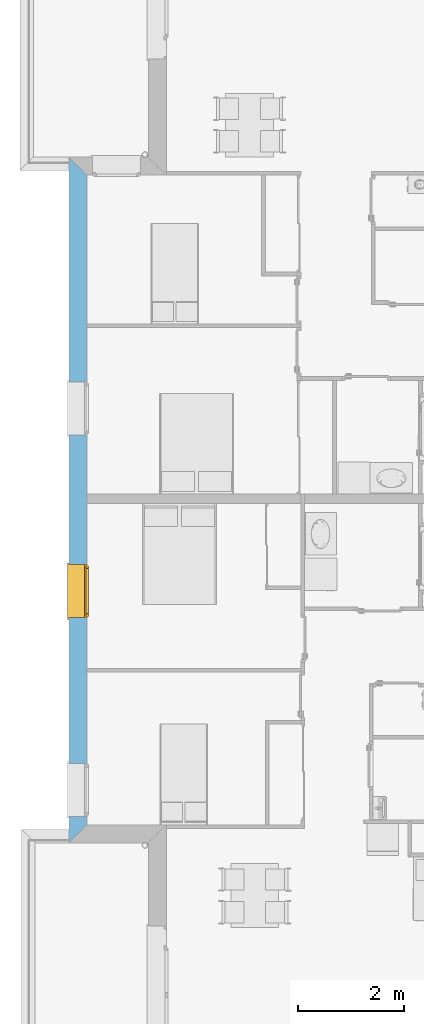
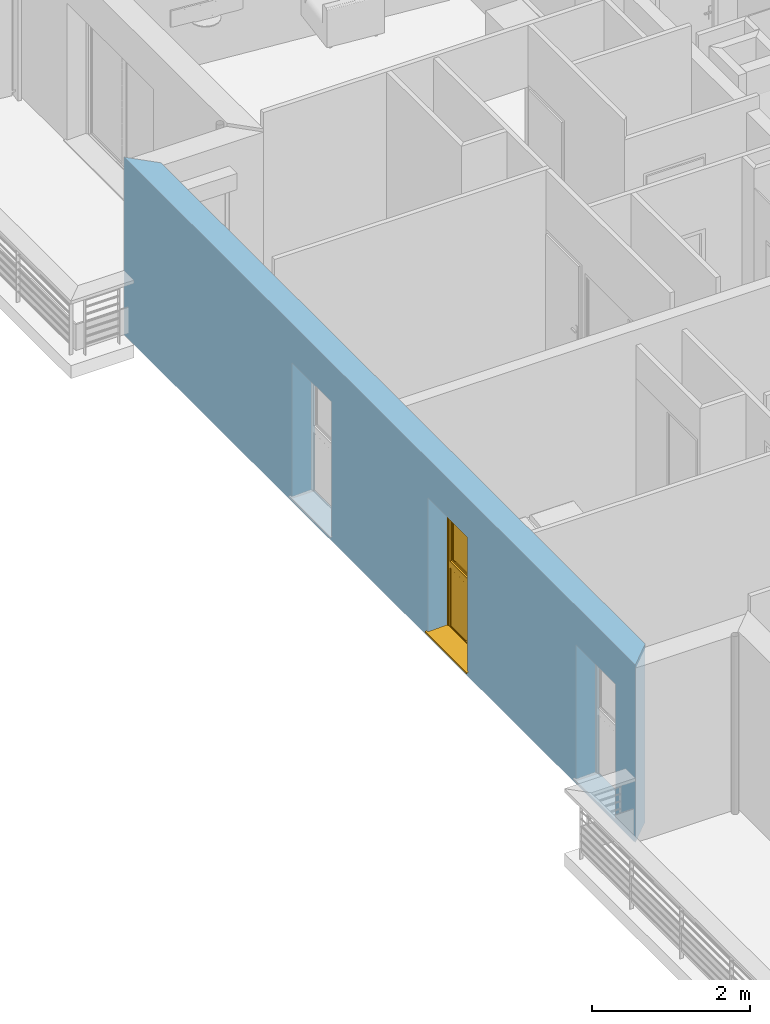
# One storey, part 27 of 164: 1 window, 3 openings, plus 1 element that does not belong to this part.
"""IFC2X3 building model written with IfcOpenShell, lengths in millimetres."""

from ifc_helpers import new_model, entity, si_unit, converted_unit, derived_unit, money_unit, direction, frame, origin_with_axes, place, context, subcontext, project, spatial, polyline, outline, extrude, open_shell, faceted_brep, surface_model, source, transform, mapped, material, layer, layer_set, layer_usage, type_object, element, fill, save


model = new_model("IFC2X3")

# Units and contexts
model_context = context("Model", 3, precision=0.01, world=origin_with_axes(), true_north=direction((0.0, 1.0)))
body_context = subcontext(model_context, "Body", "Model", "MODEL_VIEW")
ifc_project = project(units=[si_unit("LENGTHUNIT", "METRE", prefix="MILLI"), si_unit("AREAUNIT", "SQUARE_METRE"), si_unit("VOLUMEUNIT", "CUBIC_METRE"), converted_unit("PLANEANGLEUNIT", "DEGREE", entity("IfcPlaneAngleMeasure", 0.0174532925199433), si_unit("PLANEANGLEUNIT", "RADIAN"), dimensions=[0, 0, 0, 0, 0, 0, 0]), money_unit("USD"), converted_unit("TIMEUNIT", "Year", entity("IfcTimeMeasure", 31557600.0), si_unit("TIMEUNIT", "SECOND"), dimensions=[0, 0, 1, 0, 0, 0, 0]), si_unit("MASSUNIT", "GRAM", prefix="KILO"), si_unit("THERMODYNAMICTEMPERATUREUNIT", "DEGREE_CELSIUS"), si_unit("LUMINOUSINTENSITYUNIT", "LUMEN"), si_unit("ENERGYUNIT", "JOULE", prefix="MEGA"), derived_unit("THERMALCONDUCTANCEUNIT", [(si_unit("POWERUNIT", "WATT"), 1), (si_unit("LENGTHUNIT", "METRE"), -1), (si_unit("THERMODYNAMICTEMPERATUREUNIT", "KELVIN"), -1)]), derived_unit("SPECIFICHEATCAPACITYUNIT", [(si_unit("ENERGYUNIT", "JOULE"), 1), (si_unit("MASSUNIT", "GRAM", prefix="KILO"), -1), (si_unit("THERMODYNAMICTEMPERATUREUNIT", "KELVIN"), -1)]), derived_unit("MASSDENSITYUNIT", [(si_unit("MASSUNIT", "GRAM", prefix="KILO"), 1), (si_unit("VOLUMEUNIT", "CUBIC_METRE"), -1)])], contexts=[model_context])

# Site, building, storey
site_placement = place(None, origin_with_axes())
site = spatial("IfcSite", under=ifc_project, at=site_placement, Name="Site", CompositionType="ELEMENT")
building_placement = place(site_placement, origin_with_axes())
building = spatial("IfcBuilding", under=site, at=building_placement, Name="Bâtiment", CompositionType="ELEMENT")
storey_placement = place(building_placement, frame((0.0, 0.0, 5750.0), z_axis=(0.0, 0.0, 1.0), x_axis=(1.0, 0.0, 0.0)))
storey = spatial("IfcBuildingStorey", under=building, at=storey_placement, Name="Etage1", CompositionType="ELEMENT", Elevation=5750.0)

# Wall, openings, window
ifc_material_1 = material(Name="Parpaing 312445824")
ifc_layer_1 = layer(ifc_material_1, 180.0, ventilated="UNKNOWN")
ifc_material_2 = material(Name="Isolant styromousse 301821074")
ifc_layer_2 = layer(ifc_material_2, 160.0, ventilated="UNKNOWN")
ifc_layer_set = layer_set([ifc_layer_1, ifc_layer_2], Name="isol int 18+16 0018356637")
ifc_layer_usage = layer_usage(ifc_layer_set, "AXIS2", "POSITIVE", 0.0)
wall_type = type_object("IfcWallType", Name="isol int 18+16 0018356637 340", PredefinedType="NOTDEFINED")
wall_placement = place(storey_placement, frame((2216634.23600678, -626071.2161261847, 0.0), z_axis=(0.0, 0.0, 1.0), x_axis=(5.891582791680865e-06, -0.9999999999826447, 0.0)))
wall = element("IfcWallStandardCase", 1, at=wall_placement, inside=storey, type_object=wall_type, material=ifc_layer_usage, Name="Mur-143", context=body_context, shape_type="SweptSolid", body=[
    extrude(outline(polyline([(-0.001993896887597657, 0.0), (12945.59157326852, 0.0), (12605.59357640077, 340.0000000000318), (340.0000092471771, 340.0000000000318), (-0.001993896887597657, 0.0)])), origin_with_axes(), (0.0, 0.0, 1.0), 2750.0),
])
opening_1_placement = place(wall_placement, frame((4744.546071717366, -1.13686837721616e-10, 49.99999999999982), z_axis=(0.0, 0.0, 1.0), x_axis=(1.0, 0.0, 0.0)))
element("IfcOpeningElement", 2, at=opening_1_placement, cuts=wall, Name="Fen-133", context=body_context, shape_type="Brep", body=[
    faceted_brep([(-499.9999999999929, 289.9999999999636, 2100.0), (-499.9999999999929, 341.0762700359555, 2100.0), (-500.0, 341.0762700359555, 0.0), (-500.0, 289.9999999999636, 0.0), (-499.9999999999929, 280.0000000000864, 2100.0), (-499.9999999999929, 280.0000000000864, 2350.0), (-500.0, 530.0000000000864, 2350.0), (-500.0, 530.0000000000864, 2100.0), (500.0, 341.0762700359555, 2100.0), (500.0, 341.0762700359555, 0.0), (500.0, 289.9999999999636, 0.0), (500.0, -1.076270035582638, 0.0), (-500.0, -1.076270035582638, 0.0), (-500.0, -1.076270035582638, 2100.0), (500.0, 280.0000000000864, 2100.0), (500.0, 280.0000000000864, 2350.0), (499.9999999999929, 529.9999999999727, 2350.0), (499.9999999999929, 529.9999999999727, 2100.0), (500.0, 289.9999999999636, 2100.0), (500.0, -1.076270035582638, 2100.0)], [[[0, 1, 2, 3]], [[1, 0, 4, 5, 6, 7]], [[1, 8, 9, 2]], [[10, 11, 12, 3, 2, 9]], [[4, 0, 3, 12, 13]], [[4, 14, 15, 5]], [[6, 5, 15, 16]], [[7, 6, 16, 17]], [[8, 1, 7, 17]], [[8, 18, 10, 9]], [[18, 14, 19, 11, 10]], [[13, 12, 11, 19]], [[14, 4, 13, 19]], [[18, 8, 17, 16, 15, 14]]]),
])
opening_2_placement = place(wall_placement, frame((11943.66357682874, -1.13686837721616e-10, 49.99999999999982), z_axis=(0.0, 0.0, 1.0), x_axis=(1.0, 0.0, 0.0)))
element("IfcOpeningElement", 3, at=opening_2_placement, cuts=wall, Name="Fen-133", context=body_context, shape_type="Brep", body=[
    faceted_brep([(-500.0, 290.0000000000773, 2100.0), (-500.0000000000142, 341.0762700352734, 2100.0), (-500.0000000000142, 341.0762700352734, 0.0), (-500.0, 290.0000000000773, 0.0), (-500.0, 280.0000000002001, 2100.0), (-500.0, 280.0000000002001, 2350.0), (-500.0000000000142, 529.9999999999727, 2350.0), (-500.0000000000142, 529.9999999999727, 2100.0), (500.0, 341.0762700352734, 2100.0), (499.9999999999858, 341.0762700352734, 0.0), (499.9999999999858, 289.9999999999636, 0.0), (500.0, -1.076270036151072, 0.0), (-500.0, -1.076270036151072, 0.0), (-500.0, -1.076270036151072, 2100.0), (500.0, 280.0000000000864, 2100.0), (500.0, 280.0000000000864, 2350.0), (500.0, 529.9999999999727, 2350.0), (500.0, 529.9999999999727, 2100.0), (500.0, 289.9999999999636, 2100.0), (500.0, -1.076270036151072, 2100.0)], [[[0, 1, 2, 3]], [[1, 0, 4, 5, 6, 7]], [[1, 8, 9, 2]], [[10, 11, 12, 3, 2, 9]], [[4, 0, 3, 12, 13]], [[4, 14, 15, 5]], [[15, 16, 6, 5]], [[16, 17, 7, 6]], [[8, 1, 7, 17]], [[8, 18, 10, 9]], [[18, 14, 19, 11, 10]], [[13, 12, 11, 19]], [[14, 4, 13, 19]], [[18, 8, 17, 16, 15, 14]]]),
])
opening_3_placement = place(wall_placement, frame((8194.484965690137, -1.13686837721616e-10, 49.99999999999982), z_axis=(0.0, 0.0, 1.0), x_axis=(1.0, 0.0, 0.0)))
opening_3 = element("IfcOpeningElement", 4, at=opening_3_placement, cuts=wall, Name="Fen-133", context=body_context, shape_type="Brep", body=[
    faceted_brep([(-500.0, 290.0000000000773, 2100.0), (-499.9999999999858, 341.076270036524, 2100.0), (-499.9999999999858, 341.076270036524, 0.0), (-499.9999999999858, 290.0000000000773, 0.0), (-500.0, 280.0000000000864, 2100.0), (-500.0, 280.0000000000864, 2350.0), (-499.9999999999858, 530.0000000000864, 2350.0), (-499.9999999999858, 530.0000000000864, 2100.0), (500.0000000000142, 341.076270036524, 2100.0), (500.0, 341.076270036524, 0.0), (500.0000000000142, 289.9999999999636, 0.0), (500.0000000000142, -1.076270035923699, 0.0), (-499.9999999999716, -1.076270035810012, 0.0), (-499.9999999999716, -1.076270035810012, 2100.0), (500.0000000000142, 280.0000000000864, 2100.0), (500.0000000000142, 280.0000000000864, 2350.0), (500.0000000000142, 530.0000000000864, 2350.0), (500.0000000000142, 530.0000000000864, 2100.0), (500.0000000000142, 289.9999999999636, 2100.0), (500.0000000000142, -1.076270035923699, 2100.0)], [[[0, 1, 2, 3]], [[1, 0, 4, 5, 6, 7]], [[1, 8, 9, 2]], [[10, 11, 12, 3, 2, 9]], [[4, 0, 3, 12, 13]], [[4, 14, 15, 5]], [[6, 5, 15, 16]], [[7, 6, 16, 17]], [[8, 1, 7, 17]], [[8, 18, 10, 9]], [[18, 14, 19, 11, 10]], [[13, 12, 11, 19]], [[14, 4, 13, 19]], [[18, 8, 17, 16, 15, 14]]]),
])
window_style = type_object("IfcWindowStyle", Name="Fenêtre 27", ConstructionType="NOTDEFINED", OperationType="DOUBLE_PANEL_HORIZONTAL", ParameterTakesPrecedence=False, Sizeable=False)
shared_shape = source(origin_with_axes(), body_context, "Body", "SurfaceModel", [
    surface_model("IfcShellBasedSurfaceModel", [(-500.0, -51.00000000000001, 40.00000000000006), (500.0, -51.00000000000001, 40.0), (500.0, -51.00000000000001, 50.0), (-500.0, -51.00000000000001, 50.00000000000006), (-530.0, -369.9999999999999, 28.96551724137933), (530.0, -369.9999999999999, 28.96551724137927), (530.0, -339.9999999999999, 30.00324289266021), (500.0, -339.9999999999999, 30.00324289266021), (-500.0, -339.9999999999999, 30.00324289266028), (-530.0, -339.9999999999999, 30.00324289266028), (-530.0, -369.9999999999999, 8.96551724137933), (530.0, -369.9999999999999, 8.965517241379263), (-530.0, -359.9999999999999, 18.96551724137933), (530.0, -359.9999999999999, 18.96551724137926)], [open_shell([[[0, 1, 2, 3]], [[4, 5, 6, 7, 1, 0, 8, 9]], [[10, 11, 5, 4]], [[12, 13, 11, 10]]])]),
    faceted_brep([(500.0, -59.99999999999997, 2350.0), (500.0, 190.0, 2350.0), (497.0, 190.0, 2350.0), (497.0, -59.99999999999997, 2350.0), (500.0, -59.99999999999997, 2100.0), (500.0, 190.0, 2100.0), (497.0, 190.0, 2100.0), (497.0, -59.99999999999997, 2100.0)], [[[0, 1, 2, 3]], [[0, 4, 5, 1]], [[1, 5, 6, 2]], [[3, 2, 6, 7]], [[4, 0, 3, 7]], [[5, 4, 7, 6]]]),
    faceted_brep([(-497.0, -59.99999999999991, 2350.0), (-497.0, 190.0000000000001, 2350.0), (-500.0, 190.0000000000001, 2350.0), (-500.0, -59.99999999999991, 2350.0), (-497.0, -59.99999999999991, 2100.0), (-497.0, 190.0000000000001, 2100.0), (-500.0, 190.0000000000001, 2100.0), (-500.0, -59.99999999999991, 2100.0)], [[[0, 1, 2, 3]], [[0, 4, 5, 1]], [[1, 5, 6, 2]], [[3, 2, 6, 7]], [[4, 0, 3, 7]], [[5, 4, 7, 6]]]),
    faceted_brep([(497.0, -60.0, 2100.0), (497.0, -60.0, 2350.0), (-497.0, -59.99999999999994, 2350.0), (-497.0, -59.99999999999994, 2100.0), (497.0, -56.99999999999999, 2100.0), (497.0, -56.99999999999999, 2347.0), (497.0, 187.0, 2347.0), (497.0, 187.0, 2103.0), (497.0, -37.99999999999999, 2103.0), (497.0, -37.99999999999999, 2100.0), (497.0, 190.0, 2100.0), (497.0, 190.0, 2350.0), (-497.0, 190.0000000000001, 2350.0), (-497.0, 190.0000000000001, 2100.0), (-497.0, -37.99999999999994, 2100.0), (-497.0, -37.99999999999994, 2103.0), (-497.0, 187.0000000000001, 2103.0), (-497.0, 187.0000000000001, 2347.0), (-497.0, -56.99999999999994, 2347.0), (-497.0, -56.99999999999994, 2100.0)], [[[0, 1, 2, 3]], [[0, 4, 5, 6, 7, 8, 9, 10, 11, 1]], [[1, 11, 12, 2]], [[3, 2, 12, 13, 14, 15, 16, 17, 18, 19]], [[4, 0, 3, 19]], [[5, 4, 19, 18]], [[6, 5, 18, 17]], [[7, 6, 17, 16]], [[8, 7, 16, 15]], [[9, 8, 15, 14]], [[10, 9, 14, 13]], [[11, 10, 13, 12]]]),
    faceted_brep([(494.0, -40.37442957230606, 2206.419644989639), (494.0, -35.54711042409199, 2188.403844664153), (494.0, -27.66471820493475, 2171.5), (494.0, -16.9667554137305, 2156.22172576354), (494.0, -3.778274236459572, 2143.03324458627), (494.0, 11.50000000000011, 2132.335281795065), (494.0, 28.40384466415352, 2124.452889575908), (494.0, 46.4196449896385, 2119.625570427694), (494.0, 65.00000000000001, 2118.0), (494.0, 83.58035501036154, 2119.625570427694), (494.0, 101.5961553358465, 2124.452889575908), (494.0, 118.4999999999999, 2132.335281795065), (494.0, 133.7782742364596, 2143.03324458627), (494.0, 146.9667554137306, 2156.22172576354), (494.0, 157.6647182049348, 2171.5), (494.0, 165.5471104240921, 2188.403844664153), (494.0, 170.3744295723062, 2206.419644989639), (494.0, 171.9999999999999, 2225.0), (494.0, 170.3744295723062, 2243.580355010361), (494.0, 165.5471104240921, 2261.596155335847), (494.0, 157.6647182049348, 2278.5), (494.0, 146.9667554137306, 2293.77827423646), (494.0, 133.7782742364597, 2306.966755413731), (494.0, 118.5, 2317.664718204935), (494.0, 101.5961553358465, 2325.547110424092), (494.0, 83.58035501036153, 2330.374429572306), (494.0, 64.99999999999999, 2332.0), (494.0, 46.41964498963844, 2330.374429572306), (494.0, 28.40384466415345, 2325.547110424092), (494.0, 11.5, 2317.664718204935), (494.0, -3.778274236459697, 2306.966755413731), (494.0, -16.96675541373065, 2293.77827423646), (494.0, -27.66471820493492, 2278.5), (494.0, -35.54711042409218, 2261.596155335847), (494.0, -40.37442957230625, 2243.580355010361), (494.0, -41.99999999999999, 2225.0), (-494.0, -40.374429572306, 2206.419644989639), (-494.0, -35.54711042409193, 2188.403844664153), (-494.0, -27.6647182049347, 2171.5), (-494.0, -16.96675541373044, 2156.22172576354), (-494.0, -3.778274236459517, 2143.03324458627), (-494.0, 11.50000000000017, 2132.335281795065), (-494.0, 28.40384466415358, 2124.452889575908), (-494.0, 46.41964498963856, 2119.625570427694), (-494.0, 65.00000000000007, 2118.0), (-494.0, 83.5803550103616, 2119.625570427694), (-494.0, 101.5961553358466, 2124.452889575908), (-494.0, 118.5, 2132.335281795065), (-494.0, 133.7782742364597, 2143.03324458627), (-494.0, 146.9667554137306, 2156.22172576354), (-494.0, 157.6647182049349, 2171.5), (-494.0, 165.5471104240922, 2188.403844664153), (-494.0, 170.3744295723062, 2206.419644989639), (-494.0, 172.0, 2225.0), (-494.0, 170.3744295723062, 2243.580355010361), (-494.0, 165.5471104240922, 2261.596155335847), (-494.0, 157.6647182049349, 2278.5), (-494.0, 146.9667554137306, 2293.77827423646), (-494.0, 133.7782742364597, 2306.966755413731), (-494.0, 118.5, 2317.664718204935), (-494.0, 101.5961553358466, 2325.547110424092), (-494.0, 83.58035501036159, 2330.374429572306), (-494.0, 65.00000000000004, 2332.0), (-494.0, 46.41964498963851, 2330.374429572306), (-494.0, 28.40384466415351, 2325.547110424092), (-494.0, 11.50000000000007, 2317.664718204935), (-494.0, -3.778274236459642, 2306.966755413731), (-494.0, -16.96675541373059, 2293.77827423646), (-494.0, -27.66471820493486, 2278.5), (-494.0, -35.54711042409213, 2261.596155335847), (-494.0, -40.37442957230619, 2243.580355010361), (-494.0, -41.99999999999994, 2225.0)], [[[0, 1, 2, 3, 4, 5, 6, 7, 8, 9, 10, 11, 12, 13, 14, 15, 16, 17, 18, 19, 20, 21, 22, 23, 24, 25, 26, 27, 28, 29, 30, 31, 32, 33, 34, 35]], [[1, 0, 36, 37]], [[2, 1, 37, 38]], [[3, 2, 38, 39]], [[4, 3, 39, 40]], [[5, 4, 40, 41]], [[6, 5, 41, 42]], [[7, 6, 42, 43]], [[8, 7, 43, 44]], [[9, 8, 44, 45]], [[10, 9, 45, 46]], [[11, 10, 46, 47]], [[12, 11, 47, 48]], [[13, 12, 48, 49]], [[14, 13, 49, 50]], [[15, 14, 50, 51]], [[16, 15, 51, 52]], [[17, 16, 52, 53]], [[18, 17, 53, 54]], [[19, 18, 54, 55]], [[20, 19, 55, 56]], [[21, 20, 56, 57]], [[22, 21, 57, 58]], [[23, 22, 58, 59]], [[24, 23, 59, 60]], [[25, 24, 60, 61]], [[26, 25, 61, 62]], [[27, 26, 62, 63]], [[28, 27, 63, 64]], [[29, 28, 64, 65]], [[30, 29, 65, 66]], [[31, 30, 66, 67]], [[32, 31, 67, 68]], [[33, 32, 68, 69]], [[34, 33, 69, 70]], [[35, 34, 70, 71]], [[0, 35, 71, 36]], [[36, 71, 70, 69, 68, 67, 66, 65, 64, 63, 62, 61, 60, 59, 58, 57, 56, 55, 54, 53, 52, 51, 50, 49, 48, 47, 46, 45, 44, 43, 42, 41, 40, 39, 38, 37]]]),
    faceted_brep([(-500.0, -34.99999999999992, 30.0), (-500.0, -59.99999999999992, 30.0), (-500.0, -59.99999999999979, 2100.0), (-500.0, -34.99999999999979, 2100.0), (-475.0, -34.99999999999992, 30.0), (-475.0, -37.99999999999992, 30.0), (-497.0, -37.99999999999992, 30.0), (-497.0, -56.99999999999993, 30.0), (-475.0, -56.99999999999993, 30.0), (-475.0, -59.99999999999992, 30.0), (-475.0, -59.99999999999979, 2100.0), (-475.0, -56.99999999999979, 2100.0), (-497.0, -56.99999999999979, 2100.0), (-497.0, -37.99999999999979, 2100.0), (-475.0, -37.99999999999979, 2100.0), (-475.0, -34.99999999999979, 2100.0)], [[[0, 1, 2, 3]], [[0, 4, 5, 6, 7, 8, 9, 1]], [[1, 9, 10, 2]], [[3, 2, 10, 11, 12, 13, 14, 15]], [[4, 0, 3, 15]], [[5, 4, 15, 14]], [[6, 5, 14, 13]], [[7, 6, 13, 12]], [[8, 7, 12, 11]], [[9, 8, 11, 10]]]),
    faceted_brep([(500.0, -34.99999999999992, 30.0), (500.0, -34.99999999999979, 2100.0), (500.0, -59.99999999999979, 2100.0), (500.0, -59.99999999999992, 30.0), (475.0, -34.99999999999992, 30.0), (475.0, -34.99999999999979, 2100.0), (475.0, -37.99999999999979, 2100.0), (497.0, -37.99999999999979, 2100.0), (497.0, -56.99999999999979, 2100.0), (475.0, -56.99999999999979, 2100.0), (475.0, -59.99999999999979, 2100.0), (475.0, -59.99999999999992, 30.0), (475.0, -56.99999999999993, 30.0), (497.0, -56.99999999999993, 30.0), (497.0, -37.99999999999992, 30.0), (475.0, -37.99999999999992, 30.0)], [[[0, 1, 2, 3]], [[4, 5, 1, 0]], [[1, 5, 6, 7, 8, 9, 10, 2]], [[3, 2, 10, 11]], [[0, 3, 11, 12, 13, 14, 15, 4]], [[15, 6, 5, 4]], [[14, 7, 6, 15]], [[13, 8, 7, 14]], [[12, 9, 8, 13]], [[11, 10, 9, 12]]]),
    faceted_brep([(-497.0, -46.66666666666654, 2225.0), (497.0, -46.6666666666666, 2225.0), (497.0, -46.6666666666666, 2216.666666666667), (-497.0, -46.66666666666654, 2216.666666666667), (-497.0, -51.66666666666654, 2225.0), (497.0, -51.6666666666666, 2225.0), (497.0, -51.6666666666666, 2216.666666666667), (497.0, -49.99999999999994, 2200.0), (497.0, -44.99999999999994, 2200.0), (-497.0, -44.99999999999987, 2200.0), (-497.0, -49.99999999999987, 2200.0), (-497.0, -51.66666666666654, 2216.666666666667)], [[[0, 1, 2, 3]], [[1, 0, 4, 5]], [[1, 5, 6, 7, 8, 2]], [[2, 8, 9, 3]], [[4, 0, 3, 9, 10, 11]], [[6, 5, 4, 11]], [[7, 6, 11, 10]], [[8, 7, 10, 9]]]),
    faceted_brep([(497.0, -44.99999999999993, 2200.0), (497.0, -46.6666666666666, 2183.333333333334), (-497.0, -46.66666666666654, 2183.333333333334), (-497.0, -44.99999999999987, 2200.0), (497.0, -49.99999999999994, 2200.0), (497.0, -51.6666666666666, 2183.333333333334), (497.0, -51.6666666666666, 2166.666666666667), (497.0, -49.99999999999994, 2150.000000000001), (497.0, -44.99999999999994, 2150.000000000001), (497.0, -46.6666666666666, 2166.666666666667), (-497.0, -46.66666666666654, 2166.666666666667), (-497.0, -44.99999999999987, 2150.000000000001), (-497.0, -49.99999999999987, 2150.000000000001), (-497.0, -51.66666666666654, 2166.666666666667), (-497.0, -51.66666666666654, 2183.333333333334), (-497.0, -49.99999999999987, 2200.0)], [[[0, 1, 2, 3]], [[0, 4, 5, 6, 7, 8, 9, 1]], [[1, 9, 10, 2]], [[3, 2, 10, 11, 12, 13, 14, 15]], [[4, 0, 3, 15]], [[5, 4, 15, 14]], [[6, 5, 14, 13]], [[7, 6, 13, 12]], [[8, 7, 12, 11]], [[9, 8, 11, 10]]]),
    faceted_brep([(497.0, -44.99999999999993, 2150.000000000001), (497.0, -46.6666666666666, 2133.333333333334), (-497.0, -46.66666666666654, 2133.333333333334), (-497.0, -44.99999999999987, 2150.000000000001), (497.0, -49.99999999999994, 2150.000000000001), (497.0, -51.6666666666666, 2133.333333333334), (497.0, -51.6666666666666, 2116.666666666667), (497.0, -49.99999999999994, 2100.000000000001), (497.0, -44.99999999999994, 2100.000000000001), (497.0, -46.6666666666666, 2116.666666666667), (-497.0, -46.66666666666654, 2116.666666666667), (-497.0, -44.99999999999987, 2100.000000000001), (-497.0, -49.99999999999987, 2100.000000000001), (-497.0, -51.66666666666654, 2116.666666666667), (-497.0, -51.66666666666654, 2133.333333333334), (-497.0, -49.99999999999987, 2150.000000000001)], [[[0, 1, 2, 3]], [[0, 4, 5, 6, 7, 8, 9, 1]], [[1, 9, 10, 2]], [[3, 2, 10, 11, 12, 13, 14, 15]], [[4, 0, 3, 15]], [[5, 4, 15, 14]], [[6, 5, 14, 13]], [[7, 6, 13, 12]], [[8, 7, 12, 11]], [[9, 8, 11, 10]]]),
    faceted_brep([(475.0000000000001, 0.0, 2050.0), (475.0000000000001, -25.00000000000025, 2050.0), (450.0, -25.00000000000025, 2050.0), (450.0, -50.00000000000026, 2050.0), (500.0, -50.00000000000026, 2050.0), (500.0, 0.0, 2050.0), (475.0000000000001, 0.0, 1025.0), (475.0000000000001, -25.00000000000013, 1025.0), (450.0, -25.00000000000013, 1050.0), (450.0, -25.00000000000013, 1025.0), (450.0, -50.00000000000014, 1050.0), (450.0, -50.00000000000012, 950.0), (450.0, -50.00000000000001, 50.00000000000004), (500.0, -50.00000000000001, 50.00000000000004), (500.0, 0.0, 50.00000000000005), (450.0, 0.0, 50.00000000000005), (450.0, 0.0, 950.0), (450.0, 0.0, 1025.0)], [[[0, 1, 2, 3, 4, 5]], [[1, 0, 6, 7]], [[8, 2, 1, 7, 9]], [[2, 8, 10, 3]], [[10, 11, 12, 13, 4, 3]], [[5, 4, 13, 14]], [[6, 0, 5, 14, 15, 16, 17]], [[6, 17, 9, 7]], [[9, 17, 16, 11, 10, 8]], [[15, 12, 11, 16]], [[14, 13, 12, 15]]]),
    faceted_brep([(-450.0, -25.00000000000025, 2050.0), (-475.0000000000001, -25.00000000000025, 2050.0), (-475.0000000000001, 0.0, 2050.0), (-500.0, 0.0, 2050.0), (-500.0, -50.00000000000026, 2050.0), (-450.0, -50.00000000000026, 2050.0), (-450.0, -25.00000000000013, 1050.0), (-450.0, -25.00000000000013, 1025.0), (-475.0000000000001, -25.00000000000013, 1025.0), (-475.0000000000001, 0.0, 1025.0), (-450.0, 0.0, 1025.0), (-450.0, 0.0, 950.0), (-450.0, 0.0, 50.00000000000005), (-500.0, 0.0, 50.00000000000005), (-500.0, -50.00000000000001, 50.00000000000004), (-450.0, -50.00000000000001, 50.00000000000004), (-450.0, -50.00000000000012, 950.0), (-450.0, -50.00000000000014, 1050.0)], [[[0, 1, 2, 3, 4, 5]], [[1, 0, 6, 7, 8]], [[9, 2, 1, 8]], [[9, 10, 11, 12, 13, 3, 2]], [[13, 14, 4, 3]], [[14, 15, 16, 17, 5, 4]], [[6, 0, 5, 17]], [[7, 6, 17, 16, 11, 10]], [[10, 9, 8, 7]], [[11, 16, 15, 12]], [[12, 15, 14, 13]]]),
    faceted_brep([(450.0, -25.00000000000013, 1050.0), (-450.0, -25.00000000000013, 1050.0), (-450.0, -50.00000000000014, 1050.0), (450.0, -50.00000000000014, 1050.0), (-450.0, -25.00000000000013, 1025.0), (450.0, -25.00000000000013, 1025.0), (-450.0, 0.0, 1025.0), (-450.0, 0.0, 950.0), (-450.0, -50.00000000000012, 950.0), (450.0, -50.00000000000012, 950.0), (450.0, 0.0, 950.0), (450.0, 0.0, 1025.0)], [[[0, 1, 2, 3]], [[4, 1, 0, 5]], [[4, 6, 7, 8, 2, 1]], [[8, 9, 3, 2]], [[5, 0, 3, 9, 10, 11]], [[11, 6, 4, 5]], [[6, 11, 10, 7]], [[10, 9, 8, 7]]]),
    faceted_brep([(475.0000000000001, 0.0, 2050.0), (475.0000000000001, 0.0, 2075.0), (-475.0000000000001, 0.0, 2075.0), (-475.0000000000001, 0.0, 2050.0), (-500.0, 0.0, 2050.0), (-500.0, 0.0, 2100.0), (500.0, 0.0, 2100.0), (500.0, 0.0, 2050.0), (475.0000000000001, -25.00000000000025, 2050.0), (475.0000000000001, -25.00000000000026, 2075.0), (-475.0000000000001, -25.00000000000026, 2075.0), (-475.0000000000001, -25.00000000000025, 2050.0), (-450.0, -25.00000000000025, 2050.0), (-450.0, -50.00000000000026, 2050.0), (-500.0, -50.00000000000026, 2050.0), (-500.0, -50.00000000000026, 2100.0), (500.0, -50.00000000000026, 2100.0), (500.0, -50.00000000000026, 2050.0), (450.0, -50.00000000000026, 2050.0), (450.0, -25.00000000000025, 2050.0)], [[[0, 1, 2, 3, 4, 5, 6, 7]], [[1, 0, 8, 9]], [[2, 1, 9, 10]], [[3, 2, 10, 11]], [[11, 12, 13, 14, 4, 3]], [[4, 14, 15, 5]], [[5, 15, 16, 6]], [[6, 16, 17, 7]], [[8, 0, 7, 17, 18, 19]], [[12, 11, 10, 9, 8, 19]], [[12, 19, 18, 13]], [[14, 13, 18, 17, 16, 15]]]),
    faceted_brep([(450.0, -50.00000000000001, 50.0), (500.0, -50.00000000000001, 50.0), (500.0, 0.0, 50.00000000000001), (450.0, 0.0, 50.00000000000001), (-450.0, -50.00000000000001, 50.0), (-500.0, -50.00000000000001, 50.0), (-500.0, -50.0, 0.0), (500.0, -50.0, 0.0), (500.0, 0.0, 0.0), (-500.0, 0.0, 0.0), (-500.0, 0.0, 50.00000000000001), (-450.0, 0.0, 50.00000000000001)], [[[0, 1, 2, 3]], [[0, 4, 5, 6, 7, 1]], [[1, 7, 8, 2]], [[3, 2, 8, 9, 10, 11]], [[4, 0, 3, 11]], [[5, 4, 11, 10]], [[6, 5, 10, 9]], [[7, 6, 9, 8]]]),
    faceted_brep([(425.0000000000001, -25.00000000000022, 2025.0), (475.0000000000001, -25.00000000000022, 2025.0), (475.0000000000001, 24.99999999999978, 2025.0), (425.0000000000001, 24.99999999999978, 2025.0), (425.0000000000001, -25.00000000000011, 1075.0), (475.0000000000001, -25.0000000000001, 1075.0), (475.0000000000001, 24.9999999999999, 1075.0), (425.0000000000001, 24.9999999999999, 1075.0)], [[[0, 1, 2, 3]], [[0, 4, 5, 1]], [[1, 5, 6, 2]], [[3, 2, 6, 7]], [[4, 0, 3, 7]], [[5, 4, 7, 6]]]),
    faceted_brep([(-425.0000000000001, -25.00000000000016, 1075.0), (-475.0000000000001, -25.00000000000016, 1075.0), (-475.0000000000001, 24.99999999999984, 1075.0), (-425.0000000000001, 24.99999999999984, 1075.0), (-425.0000000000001, -25.00000000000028, 2025.0), (-475.0000000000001, -25.00000000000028, 2025.0), (-475.0000000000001, 24.99999999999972, 2025.0), (-425.0000000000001, 24.99999999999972, 2025.0)], [[[0, 1, 2, 3]], [[0, 4, 5, 1]], [[1, 5, 6, 2]], [[3, 2, 6, 7]], [[4, 0, 3, 7]], [[5, 4, 7, 6]]]),
    faceted_brep([(-475.0000000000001, -25.00000000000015, 1025.0), (-475.0000000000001, -25.00000000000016, 1075.0), (-475.0000000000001, 24.99999999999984, 1075.0), (-475.0000000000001, 24.99999999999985, 1025.0), (475.0000000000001, -25.0000000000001, 1025.0), (475.0000000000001, -25.0000000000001, 1075.0), (425.0000000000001, -25.00000000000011, 1075.0), (-425.0000000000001, -25.00000000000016, 1075.0), (-425.0000000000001, 24.99999999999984, 1075.0), (425.0000000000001, 24.9999999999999, 1075.0), (475.0000000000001, 24.9999999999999, 1075.0), (475.0000000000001, 24.9999999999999, 1025.0)], [[[0, 1, 2, 3]], [[0, 4, 5, 6, 7, 1]], [[1, 7, 8, 2]], [[3, 2, 8, 9, 10, 11]], [[4, 0, 3, 11]], [[5, 4, 11, 10]], [[6, 5, 10, 9]], [[7, 6, 9, 8]]]),
    faceted_brep([(475.0000000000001, -25.00000000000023, 2075.0), (475.0000000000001, -25.00000000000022, 2025.0), (475.0000000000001, 24.99999999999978, 2025.0), (475.0000000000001, 24.99999999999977, 2075.0), (-475.0000000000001, -25.00000000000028, 2075.0), (-475.0000000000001, -25.00000000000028, 2025.0), (-425.0000000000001, -25.00000000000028, 2025.0), (425.0000000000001, -25.00000000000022, 2025.0), (425.0000000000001, 24.99999999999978, 2025.0), (-425.0000000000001, 24.99999999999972, 2025.0), (-475.0000000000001, 24.99999999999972, 2025.0), (-475.0000000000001, 24.99999999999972, 2075.0)], [[[0, 1, 2, 3]], [[0, 4, 5, 6, 7, 1]], [[1, 7, 8, 2]], [[3, 2, 8, 9, 10, 11]], [[4, 0, 3, 11]], [[5, 4, 11, 10]], [[6, 5, 10, 9]], [[7, 6, 9, 8]]]),
    surface_model("IfcShellBasedSurfaceModel", [(425.0000000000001, -10.00000000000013, 1075.0), (425.0000000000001, -10.00000000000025, 2025.0), (-425.0000000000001, -10.00000000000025, 2025.0), (-425.0000000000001, -10.00000000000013, 1075.0)], [open_shell([[[0, 1, 2, 3]]])]),
    surface_model("IfcShellBasedSurfaceModel", [(425.0000000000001, 9.999999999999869, 1075.0), (-425.0000000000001, 9.999999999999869, 1075.0), (-425.0000000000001, 9.999999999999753, 2025.0), (425.0000000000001, 9.999999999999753, 2025.0)], [open_shell([[[0, 1, 2, 3]]])]),
    surface_model("IfcShellBasedSurfaceModel", [(450.0, -35.0, 49.99999999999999), (450.0, -35.00000000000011, 950.0), (-450.0, -35.00000000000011, 950.0), (-450.0, -35.0, 49.99999999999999)], [open_shell([[[0, 1, 2, 3]]])]),
    surface_model("IfcShellBasedSurfaceModel", [(450.0, -15.0, 49.99999999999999), (-450.0, -15.0, 49.99999999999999), (-450.0, -15.00000000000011, 950.0), (450.0, -15.00000000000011, 950.0)], [open_shell([[[0, 1, 2, 3]]])]),
])
window_placement = place(opening_3_placement, frame((-499.9999999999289, -2.273736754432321e-10, 0.0), z_axis=(0.0, 0.0, 1.0), x_axis=(1.0, 0.0, 0.0)))
window = element("IfcWindow", 5, at=window_placement, inside=storey, type_object=window_style, Name="Fen-133", OverallHeight=2100.0, OverallWidth=1000.0, context=body_context, shape_type="MappedRepresentation", body=[
    mapped(shared_shape, transform((499.9999999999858, 340.0000000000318, 0.0))),
])
fill(opening_3, window)

save(model, "model.ifc")
